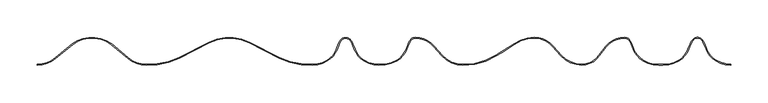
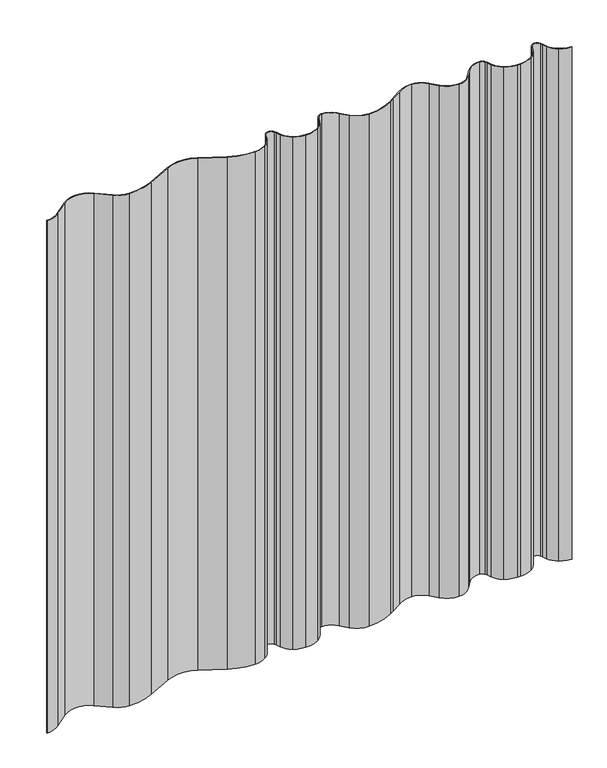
"""IFC4 building model written with IfcOpenShell, lengths in millimetres: plate geometry, Ritmica Vertical 928 : Ritmica Vertical 928."""

from ifc_helpers import new_model, si_unit, frame, origin, place, context, project, spatial, polyline, circle_curve, source, transform, mapped, element, save
from ifc_brep_helpers import plane_surface, cylinder_surface, revolved_surface, advanced_brep


def plate_e4cf7329(model_context):
    return source(origin(), model_context, "Body", "AdvancedBrep", [
        advanced_brep(
        [(444.4302446, 6.5092452, 956.5915404), (431.9836286, 21.2620905, 956.5915404), (429.1046615, 28.4575337, 956.5915404), (427.4452979, 31.9226201, 956.5915404), (411.4637013, 31.9284371, 956.5915404), (409.8018157, 28.4645596, 956.5915404), (406.9176114, 21.271214, 956.5915404), (394.4602592, 6.5274333, 956.5915404), (373.3665492, 0.7421636, 956.5915404), (368.0278773, 0.7421636, 956.5915404), (346.9383844, 6.5447303, 956.5915404), (334.4917684, 21.2975755, 956.5915404), (331.6128013, 28.4930188, 956.5915404), (329.9534377, 31.9581052, 956.5915404), (321.9644706, 36.992141, 956.5915404), (296.9888452, 24.9656023, 956.5915404), (287.4386892, 12.9828793, 956.5915404), (264.9602063, 1.004862, 956.5915404), (237.4962028, 13.0090371, 956.5915404), (226.3924296, 24.9992776, 956.5915404), (201.4255657, 37.0439944, 956.5915404), (174.6923281, 28.6299834, 956.5915404), (157.3593244, 17.4991286, 956.5915404), (149.9257866, 13.1042873, 956.5915404), (105.747615, 0.9217598, 956.5915404), (78.2836116, 12.9259348, 956.5915404), (67.1798385, 24.9161752, 956.5915404), (42.2097646, 36.9608925, 956.5915404), (34.2203451, 31.9326734, 956.5915404), (32.5584593, 28.4687956, 956.5915404), (29.674242, 21.2754179, 956.5915404), (17.2169044, 6.5316705, 956.5915404), (-6.5461114, 0.8337401, 956.5915404), (-26.0848579, 6.3430017, 956.5915404), (-38.5314739, 21.0958469, 956.5915404), (-41.410441, 28.2912902, 956.5915404), (-43.0698047, 31.7563766, 956.5915404), (-59.0514012, 31.7621935, 956.5915404), (-60.7132869, 28.298316, 956.5915404), (-63.5974912, 21.1049705, 956.5915404), (-76.0548434, 6.3611897, 956.5915404), (-95.5975949, 0.8661531, 956.5915404), (-139.3425473, 10.0476548, 956.5915404), (-179.8736188, 30.4443215, 956.5915404), (-233.7774888, 30.4639414, 956.5915404), (-274.3233975, 10.0967851, 956.5915404), (-318.0750221, 0.9471304, 956.5915404), (-341.83917, 9.5589915, 956.5915404), (-364.2633956, 28.2547827, 956.5915404), (-417.1208498, 28.2740218, 956.5915404), (-439.8609935, 9.5945594, 956.5915404), (-463.6317682, 1.0000001, 956.5915404), (-463.6317682, 0.0, 956.5915404), (-439.2211878, 8.8260227, 956.5915404), (-416.5014094, 27.488531, 956.5915404), (-364.8834077, 27.4697431, 956.5915404), (-342.479535, 8.7909208, 956.5915404), (-318.0931528, -0.0528589, 956.5915404), (-273.882295, 9.1992862, 956.5915404), (-233.3286151, 29.5703462, 956.5915404), (-180.3231429, 29.5510533, 956.5915404), (-139.7843031, 9.1504773, 956.5915404), (-95.5801931, -0.1338492, 956.5915404), (-75.5333761, 5.5079185, 956.5915404), (-62.6692321, 20.7330361, 956.5915404), (-59.7974032, 27.8955168, 956.5915404), (-58.1497994, 31.3296266, 956.5915404), (-43.9717211, 31.324466, 956.5915404), (-42.3266177, 27.8891578, 956.5915404), (-39.4600035, 20.7245884, 956.5915404), (-26.6069462, 5.4901103, 956.5915404), (-6.5788504, -0.1662344, 956.5915404), (17.7328786, 5.6750431, 956.5915404), (30.6024869, 20.9034484, 956.5915404), (33.4743429, 28.0659964, 956.5915404), (35.1219469, 31.5001063, 956.5915404), (42.2097628, 35.9608925, 956.5915404), (66.4203948, 24.2645007, 956.5915404), (77.5499027, 12.2464708, 956.5915404), (105.7362544, -0.0782346, 956.5915404), (150.4460781, 12.2501965, 956.5915404), (157.8841427, 16.6477141, 956.5915404), (175.2477974, 27.7982523, 956.5915404), (201.4270073, 36.0439937, 956.5915404), (225.6330756, 24.3475061, 956.5915404), (236.7624939, 12.3295731, 956.5915404), (264.9598423, 0.0048621, 956.5915404), (288.2459339, 12.3912758, 956.5915404), (297.7708595, 24.3423418, 956.5915404), (321.9641067, 35.9921411, 956.5915404), (329.0515212, 31.5261946, 956.5915404), (330.6966247, 28.0908864, 956.5915404), (333.5638307, 20.9248377, 956.5915404), (346.4204051, 5.6893005, 956.5915404), (368.0275134, -0.2558932, 956.5915404), (373.3663683, -0.2578364, 956.5915404), (394.9762369, 5.6708079, 956.5915404), (407.8458704, 20.8992797, 956.5915404), (410.7176994, 28.0617603, 956.5915404), (412.3653031, 31.4958701, 956.5915404), (426.5433815, 31.4907096, 956.5915404), (428.1884849, 28.0554013, 956.5915404), (431.0550991, 20.8908319, 956.5915404), (443.9081563, 5.6563538, 956.5915404), (463.9686268, -1.63e-05, 956.5915404), (463.9686268, 0.9999838, 956.5915404), (444.4302446, 6.5092452, 0.0), (463.9686268, 0.9999838, 0.0), (463.9686268, -1.63e-05, 0.0), (443.9081563, 5.6563538, 0.0), (431.0550991, 20.8908319, 0.0), (428.1884849, 28.0554013, 0.0), (426.5433815, 31.4907096, 0.0), (412.3653031, 31.4958701, 0.0), (410.7176994, 28.0617603, 0.0), (407.8458704, 20.8992797, 0.0), (394.9762369, 5.6708079, 0.0), (373.3663683, -0.2578364, 0.0), (368.0278773, -0.2578364, 0.0), (346.4204051, 5.6893005, 0.0), (333.5638307, 20.9248377, 0.0), (330.6966247, 28.0908864, 0.0), (329.0515212, 31.5261946, 0.0), (321.9641067, 35.9921411, 0.0), (297.7708595, 24.3423418, 0.0), (288.2459339, 12.3912758, 0.0), (264.9598423, 0.0048621, 0.0), (236.7624939, 12.3295731, 0.0), (225.6330756, 24.3475061, 0.0), (201.4270073, 36.0439937, 0.0), (175.2477974, 27.7982523, 0.0), (157.8841427, 16.6477141, 0.0), (150.4460781, 12.2501965, 0.0), (105.7362544, -0.0782346, 0.0), (77.5499027, 12.2464708, 0.0), (66.4203948, 24.2645007, 0.0), (42.2097628, 35.9608925, 0.0), (35.1219469, 31.5001063, 0.0), (33.4743429, 28.0659964, 0.0), (30.6024869, 20.9034484, 0.0), (17.7328786, 5.6750431, 0.0), (-6.5788504, -0.1662344, 0.0), (-26.6069462, 5.4901103, 0.0), (-39.4600035, 20.7245884, 0.0), (-42.3266177, 27.8891578, 0.0), (-43.9717211, 31.324466, 0.0), (-58.1497994, 31.3296266, 0.0), (-59.7974032, 27.8955168, 0.0), (-62.6692321, 20.7330361, 0.0), (-75.5333761, 5.5079185, 0.0), (-95.5801931, -0.1338492, 0.0), (-139.7843031, 9.1504773, 0.0), (-180.3231429, 29.5510533, 0.0), (-233.3286151, 29.5703462, 0.0), (-273.882295, 9.1992862, 0.0), (-318.0931528, -0.0528589, 0.0), (-342.479535, 8.7909208, 0.0), (-364.8834077, 27.4697431, 0.0), (-416.5014094, 27.488531, 0.0), (-439.2211878, 8.8260227, 0.0), (-463.6317682, 0.0, 0.0), (-463.6317682, 1.0000001, 0.0), (-439.8609935, 9.5945594, 0.0), (-417.1208498, 28.2740218, 0.0), (-364.2633956, 28.2547827, 0.0), (-341.83917, 9.5589915, 0.0), (-318.0750221, 0.9471304, 0.0), (-274.3233975, 10.0967851, 0.0), (-233.7774888, 30.4639414, 0.0), (-179.8736188, 30.4443215, 0.0), (-139.3425473, 10.0476548, 0.0), (-95.5975949, 0.8661531, 0.0), (-76.0548434, 6.3611897, 0.0), (-63.5974912, 21.1049705, 0.0), (-60.7132869, 28.298316, 0.0), (-59.0514012, 31.7621935, 0.0), (-43.0698047, 31.7563766, 0.0), (-41.410441, 28.2912902, 0.0), (-38.5314739, 21.0958469, 0.0), (-26.0848579, 6.3430017, 0.0), (-6.5461114, 0.8337401, 0.0), (17.2169044, 6.5316705, 0.0), (29.674242, 21.2754179, 0.0), (32.5584593, 28.4687956, 0.0), (34.2203451, 31.9326734, 0.0), (42.2097646, 36.9608925, 0.0), (67.1798385, 24.9161752, 0.0), (78.2836116, 12.9259348, 0.0), (105.747615, 0.9217598, 0.0), (149.9257866, 13.1042873, 0.0), (157.3593244, 17.4991286, 0.0), (174.6923281, 28.6299834, 0.0), (201.4255657, 37.0439944, 0.0), (226.3924296, 24.9992776, 0.0), (237.4962028, 13.0090371, 0.0), (264.9602063, 1.004862, 0.0), (287.4386892, 12.9828793, 0.0), (296.9888452, 24.9656023, 0.0), (321.9644706, 36.992141, 0.0), (329.9534377, 31.9581052, 0.0), (331.6128013, 28.4930188, 0.0), (334.4917684, 21.2975755, 0.0), (346.9383844, 6.5447303, 0.0), (368.0278773, 0.7441067, 0.0), (373.3665492, 0.7421636, 0.0), (394.4602592, 6.5274333, 0.0), (406.9176114, 21.271214, 0.0), (409.8018157, 28.4645596, 0.0), (411.4637013, 31.9284371, 0.0), (427.4452979, 31.9226201, 0.0), (429.1046615, 28.4575337, 0.0), (431.9836286, 21.2620905, 0.0)],
        [
            (0, 1, circle_curve(frame((460.4148551, 32.6219475, 956.5915404), z_axis=(0.0, 0.0, -1.0), x_axis=(1.0, 0.0, 0.0)), 30.6166783)),
            (1, 2),
            (2, 3),
            (3, 4, circle_curve(frame((419.4531055, 28.095312, 956.5915404), z_axis=(0.0, 0.0, 1.0), x_axis=(1.0, 0.0, 0.0)), 8.8613445)),
            (4, 5),
            (5, 6),
            (6, 7, circle_curve(frame((378.4946619, 32.6517648, 956.5915404), z_axis=(0.0, 0.0, -1.0), x_axis=(1.0, 0.0, 0.0)), 30.6166783)),
            (7, 8, circle_curve(frame((373.381579, 42.0349557, 956.5915404), z_axis=(0.0, 0.0, -1.0), x_axis=(1.0, 0.0, 0.0)), 41.2927949)),
            (8, 9),
            (9, 10, circle_curve(frame((368.0429071, 42.0368989, 956.5915404), z_axis=(0.0, 0.0, -1.0), x_axis=(1.0, 0.0, 0.0)), 41.2927949)),
            (10, 11, circle_curve(frame((363.1637949, 32.8605896, 956.5915404), z_axis=(0.0, 0.0, -1.0), x_axis=(1.0, 0.0, 0.0)), 30.9158276)),
            (11, 12),
            (12, 13),
            (13, 14, circle_curve(frame((321.9612453, 28.130797, 956.5915404), z_axis=(0.0, 0.0, 1.0), x_axis=(1.0, 0.0, 0.0)), 8.8613445)),
            (14, 15, circle_curve(frame((321.9528514, 5.069444, 956.5915404), z_axis=(0.0, 0.0, 1.0), x_axis=(1.0, 0.0, 0.0)), 31.9226992)),
            (15, 16),
            (16, 17, circle_curve(frame((264.9700565, 28.0674484, 956.5915404), z_axis=(0.0, 0.0, -1.0), x_axis=(1.0, 0.0, 0.0)), 27.0625882)),
            (17, 18, circle_curve(frame((264.9738374, 38.455184, 956.5915404), z_axis=(0.0, 0.0, -1.0), x_axis=(1.0, 0.0, 0.0)), 37.4503244)),
            (18, 19),
            (19, 20, circle_curve(frame((201.4139464, 5.1212973, 956.5915404), z_axis=(0.0, 0.0, 1.0), x_axis=(1.0, 0.0, 0.0)), 31.9226992)),
            (20, 21, circle_curve(frame((201.5791622, -10.119828, 956.5915404), z_axis=(0.0, 0.0, 1.0), x_axis=(1.0, 0.0, 0.0)), 47.1640725)),
            (21, 22),
            (22, 23),
            (23, 24, circle_curve(frame((107.5247522, 80.6713634, 956.5915404), z_axis=(0.0, 0.0, -1.0), x_axis=(1.0, 0.0, 0.0)), 79.769402)),
            (24, 25, circle_curve(frame((105.7612462, 38.3720817, 956.5915404), z_axis=(0.0, 0.0, -1.0), x_axis=(1.0, 0.0, 0.0)), 37.4503244)),
            (25, 26),
            (26, 27, circle_curve(frame((42.2097086, 5.0555108, 956.5915404), z_axis=(0.0, 0.0, 1.0), x_axis=(1.0, 0.0, 0.0)), 31.9053816)),
            (27, 28, circle_curve(frame((42.209749, 28.099548, 956.5915404), z_axis=(0.0, 0.0, 1.0), x_axis=(1.0, 0.0, 0.0)), 8.8613444)),
            (28, 29),
            (29, 30),
            (30, 31, circle_curve(frame((1.2513055, 32.656001, 956.5915404), z_axis=(0.0, 0.0, -1.0), x_axis=(1.0, 0.0, 0.0)), 30.6166783)),
            (31, 32, circle_curve(frame((-3.8617775, 42.0391919, 956.5915404), z_axis=(0.0, 0.0, -1.0), x_axis=(1.0, 0.0, 0.0)), 41.2927948)),
            (32, 33, circle_curve(frame((-6.5324806, 38.2840621, 956.5915404), z_axis=(0.0, 0.0, -1.0), x_axis=(1.0, 0.0, 0.0)), 37.4503244)),
            (33, 34, circle_curve(frame((-10.1002475, 32.4557039, 956.5915404), z_axis=(0.0, 0.0, -1.0), x_axis=(1.0, 0.0, 0.0)), 30.6166783)),
            (34, 35),
            (35, 36),
            (36, 37, circle_curve(frame((-51.0619971, 27.9290684, 956.5915404), z_axis=(0.0, 0.0, 1.0), x_axis=(1.0, 0.0, 0.0)), 8.8613445)),
            (37, 38),
            (38, 39),
            (39, 40, circle_curve(frame((-92.0204406, 32.4855212, 956.5915404), z_axis=(0.0, 0.0, -1.0), x_axis=(1.0, 0.0, 0.0)), 30.6166783)),
            (40, 41, circle_curve(frame((-95.5839638, 38.316475, 956.5915404), z_axis=(0.0, 0.0, -1.0), x_axis=(1.0, 0.0, 0.0)), 37.4503244)),
            (41, 42, circle_curve(frame((-98.8645428, 94.1023106, 956.5915404), z_axis=(0.0, 0.0, -1.0), x_axis=(1.0, 0.0, 0.0)), 93.293376)),
            (42, 43),
            (43, 44, circle_curve(frame((-206.8450653, -23.1517705, 956.5915404), z_axis=(0.0, 0.0, 1.0), x_axis=(1.0, 0.0, 0.0)), 60.0)),
            (44, 45),
            (45, 46, circle_curve(frame((-314.7402029, 94.180885, 956.5915404), z_axis=(0.0, 0.0, -1.0), x_axis=(1.0, 0.0, 0.0)), 93.293376)),
            (46, 47, circle_curve(frame((-318.061507, 38.0785482, 956.5915404), z_axis=(0.0, 0.0, -1.0), x_axis=(1.0, 0.0, 0.0)), 37.1314203)),
            (47, 48),
            (48, 49, circle_curve(frame((-390.7049909, -7.0897704, 956.5915404), z_axis=(0.0, 0.0, 1.0), x_axis=(1.0, 0.0, 0.0)), 44.1406321)),
            (49, 50),
            (50, 51, circle_curve(frame((-463.6178891, 38.1314178, 956.5915404), z_axis=(0.0, 0.0, -1.0), x_axis=(1.0, 0.0, 0.0)), 37.1314203)),
            (51, 52),
            (52, 53, circle_curve(frame((-463.6178891, 38.1314178, 956.5915404), z_axis=(0.0, 0.0, 1.0), x_axis=(1.0, 0.0, 0.0)), 38.1314203)),
            (53, 54),
            (54, 55, circle_curve(frame((-390.7049909, -7.0897704, 956.5915404), z_axis=(0.0, 0.0, -1.0), x_axis=(1.0, 0.0, 0.0)), 43.1406321)),
            (55, 56),
            (56, 57, circle_curve(frame((-318.061507, 38.0785482, 956.5915404), z_axis=(0.0, 0.0, 1.0), x_axis=(1.0, 0.0, 0.0)), 38.1314203)),
            (57, 58, circle_curve(frame((-314.7402029, 94.180885, 956.5915404), z_axis=(0.0, 0.0, 1.0), x_axis=(1.0, 0.0, 0.0)), 94.293376)),
            (58, 59),
            (59, 60, circle_curve(frame((-206.8450653, -23.1517705, 956.5915404), z_axis=(0.0, 0.0, -1.0), x_axis=(1.0, 0.0, 0.0)), 59.0)),
            (60, 61),
            (61, 62, circle_curve(frame((-98.8645428, 94.1023106, 956.5915404), z_axis=(0.0, 0.0, 1.0), x_axis=(1.0, 0.0, 0.0)), 94.293376)),
            (62, 63, circle_curve(frame((-95.5839638, 38.316475, 956.5915404), z_axis=(0.0, 0.0, 1.0), x_axis=(1.0, 0.0, 0.0)), 38.4503244)),
            (63, 64, circle_curve(frame((-92.0204406, 32.4855212, 956.5915404), z_axis=(0.0, 0.0, 1.0), x_axis=(1.0, 0.0, 0.0)), 31.6166783)),
            (64, 65),
            (65, 66),
            (66, 67, circle_curve(frame((-51.0619971, 27.9290684, 956.5915404), z_axis=(0.0, 0.0, -1.0), x_axis=(1.0, 0.0, 0.0)), 7.8613445)),
            (67, 68),
            (68, 69),
            (69, 70, circle_curve(frame((-10.1002475, 32.4557039, 956.5915404), z_axis=(0.0, 0.0, 1.0), x_axis=(1.0, 0.0, 0.0)), 31.6166783)),
            (70, 71, circle_curve(frame((-6.5324806, 38.2840621, 956.5915404), z_axis=(0.0, 0.0, 1.0), x_axis=(1.0, 0.0, 0.0)), 38.4503244)),
            (71, 72, circle_curve(frame((-3.8617775, 42.0391919, 956.5915404), z_axis=(0.0, 0.0, 1.0), x_axis=(1.0, 0.0, 0.0)), 42.2927948)),
            (72, 73, circle_curve(frame((1.2513055, 32.656001, 956.5915404), z_axis=(0.0, 0.0, 1.0), x_axis=(1.0, 0.0, 0.0)), 31.6166782)),
            (73, 74),
            (74, 75),
            (75, 76, circle_curve(frame((42.209749, 28.099548, 956.5915404), z_axis=(0.0, 0.0, -1.0), x_axis=(1.0, 0.0, 0.0)), 7.8613444)),
            (76, 77, circle_curve(frame((42.2097086, 5.0555108, 956.5915404), z_axis=(0.0, 0.0, -1.0), x_axis=(1.0, 0.0, 0.0)), 30.9053816)),
            (77, 78),
            (78, 79, circle_curve(frame((105.7612462, 38.3720817, 956.5915404), z_axis=(0.0, 0.0, 1.0), x_axis=(1.0, 0.0, 0.0)), 38.4503244)),
            (79, 80, circle_curve(frame((107.5247522, 80.6713634, 956.5915404), z_axis=(0.0, 0.0, 1.0), x_axis=(1.0, 0.0, 0.0)), 80.769402)),
            (80, 81),
            (81, 82),
            (82, 83, circle_curve(frame((201.5791622, -10.119828, 956.5915404), z_axis=(0.0, 0.0, -1.0), x_axis=(1.0, 0.0, 0.0)), 46.1640725)),
            (83, 84, circle_curve(frame((201.4139464, 5.1212973, 956.5915404), z_axis=(0.0, 0.0, -1.0), x_axis=(1.0, 0.0, 0.0)), 30.9226992)),
            (84, 85),
            (85, 86, circle_curve(frame((264.9738374, 38.455184, 956.5915404), z_axis=(0.0, 0.0, 1.0), x_axis=(1.0, 0.0, 0.0)), 38.4503244)),
            (86, 87, circle_curve(frame((264.9700565, 28.0674484, 956.5915404), z_axis=(0.0, 0.0, 1.0), x_axis=(1.0, 0.0, 0.0)), 28.0625882)),
            (87, 88),
            (88, 89, circle_curve(frame((321.9528514, 5.069444, 956.5915404), z_axis=(0.0, 0.0, -1.0), x_axis=(1.0, 0.0, 0.0)), 30.9226992)),
            (89, 90, circle_curve(frame((321.9612453, 28.130797, 956.5915404), z_axis=(0.0, 0.0, -1.0), x_axis=(1.0, 0.0, 0.0)), 7.8613445)),
            (90, 91),
            (91, 92),
            (92, 93, circle_curve(frame((363.1637949, 32.8605896, 956.5915404), z_axis=(0.0, 0.0, 1.0), x_axis=(1.0, 0.0, 0.0)), 31.9158276)),
            (93, 94, circle_curve(frame((368.0429071, 42.0368989, 956.5915404), z_axis=(0.0, 0.0, 1.0), x_axis=(1.0, 0.0, 0.0)), 42.2927949)),
            (94, 95),
            (95, 96, circle_curve(frame((373.381579, 42.0349557, 956.5915404), z_axis=(0.0, 0.0, 1.0), x_axis=(1.0, 0.0, 0.0)), 42.2927949)),
            (96, 97, circle_curve(frame((378.4946619, 32.6517648, 956.5915404), z_axis=(0.0, 0.0, 1.0), x_axis=(1.0, 0.0, 0.0)), 31.6166783)),
            (97, 98),
            (98, 99),
            (99, 100, circle_curve(frame((419.4531055, 28.095312, 956.5915404), z_axis=(0.0, 0.0, -1.0), x_axis=(1.0, 0.0, 0.0)), 7.8613445)),
            (100, 101),
            (101, 102),
            (102, 103, circle_curve(frame((460.4148551, 32.6219475, 956.5915404), z_axis=(0.0, 0.0, 1.0), x_axis=(1.0, 0.0, 0.0)), 31.6166783)),
            (103, 104, circle_curve(frame((463.982622, 38.4503056, 956.5915404), z_axis=(0.0, 0.0, 1.0), x_axis=(1.0, 0.0, 0.0)), 38.4503244)),
            (104, 105),
            (105, 0, circle_curve(frame((463.982622, 38.4503056, 956.5915404), z_axis=(0.0, 0.0, -1.0), x_axis=(1.0, 0.0, 0.0)), 37.4503244)),
            (106, 107, circle_curve(frame((463.982622, 38.4503056, 0.0), z_axis=(0.0, 0.0, 1.0), x_axis=(1.0, 0.0, 0.0)), 37.4503244)),
            (107, 108),
            (108, 109, circle_curve(frame((463.982622, 38.4503056, 0.0), z_axis=(0.0, 0.0, -1.0), x_axis=(1.0, 0.0, 0.0)), 38.4503244)),
            (109, 110, circle_curve(frame((460.4148551, 32.6219475, 0.0), z_axis=(0.0, 0.0, -1.0), x_axis=(1.0, 0.0, 0.0)), 31.6166783)),
            (110, 111),
            (111, 112),
            (112, 113, circle_curve(frame((419.4531055, 28.095312, 0.0), z_axis=(0.0, 0.0, 1.0), x_axis=(1.0, 0.0, 0.0)), 7.8613445)),
            (113, 114),
            (114, 115),
            (115, 116, circle_curve(frame((378.4946619, 32.6517648, 0.0), z_axis=(0.0, 0.0, -1.0), x_axis=(1.0, 0.0, 0.0)), 31.6166783)),
            (116, 117, circle_curve(frame((373.381579, 42.0349557, 0.0), z_axis=(0.0, 0.0, -1.0), x_axis=(1.0, 0.0, 0.0)), 42.2927949)),
            (117, 118),
            (118, 119, circle_curve(frame((368.0429071, 42.0368989, 0.0), z_axis=(0.0, 0.0, -1.0), x_axis=(1.0, 0.0, 0.0)), 42.2927949)),
            (119, 120, circle_curve(frame((363.1637949, 32.8605896, 0.0), z_axis=(0.0, 0.0, -1.0), x_axis=(1.0, 0.0, 0.0)), 31.9158276)),
            (120, 121),
            (121, 122),
            (122, 123, circle_curve(frame((321.9612453, 28.130797, 0.0), z_axis=(0.0, 0.0, 1.0), x_axis=(1.0, 0.0, 0.0)), 7.8613445)),
            (123, 124, circle_curve(frame((321.9528514, 5.069444, 0.0), z_axis=(0.0, 0.0, 1.0), x_axis=(1.0, 0.0, 0.0)), 30.9226992)),
            (124, 125),
            (125, 126, circle_curve(frame((264.9700565, 28.0674484, 0.0), z_axis=(0.0, 0.0, -1.0), x_axis=(1.0, 0.0, 0.0)), 28.0625882)),
            (126, 127, circle_curve(frame((264.9738374, 38.455184, 0.0), z_axis=(0.0, 0.0, -1.0), x_axis=(1.0, 0.0, 0.0)), 38.4503244)),
            (127, 128),
            (128, 129, circle_curve(frame((201.4139464, 5.1212973, 0.0), z_axis=(0.0, 0.0, 1.0), x_axis=(1.0, 0.0, 0.0)), 30.9226992)),
            (129, 130, circle_curve(frame((201.5791622, -10.119828, 0.0), z_axis=(0.0, 0.0, 1.0), x_axis=(1.0, 0.0, 0.0)), 46.1640725)),
            (130, 131),
            (131, 132),
            (132, 133, circle_curve(frame((107.5247522, 80.6713634, 0.0), z_axis=(0.0, 0.0, -1.0), x_axis=(1.0, 0.0, 0.0)), 80.769402)),
            (133, 134, circle_curve(frame((105.7612462, 38.3720817, 0.0), z_axis=(0.0, 0.0, -1.0), x_axis=(1.0, 0.0, 0.0)), 38.4503244)),
            (134, 135),
            (135, 136, circle_curve(frame((42.2097086, 5.0555108, 0.0), z_axis=(0.0, 0.0, 1.0), x_axis=(1.0, 0.0, 0.0)), 30.9053816)),
            (136, 137, circle_curve(frame((42.209749, 28.099548, 0.0), z_axis=(0.0, 0.0, 1.0), x_axis=(1.0, 0.0, 0.0)), 7.8613444)),
            (137, 138),
            (138, 139),
            (139, 140, circle_curve(frame((1.2513055, 32.656001, 0.0), z_axis=(0.0, 0.0, -1.0), x_axis=(1.0, 0.0, 0.0)), 31.6166782)),
            (140, 141, circle_curve(frame((-3.8617775, 42.0391919, 0.0), z_axis=(0.0, 0.0, -1.0), x_axis=(1.0, 0.0, 0.0)), 42.2927948)),
            (141, 142, circle_curve(frame((-6.5324806, 38.2840621, 0.0), z_axis=(0.0, 0.0, -1.0), x_axis=(1.0, 0.0, 0.0)), 38.4503244)),
            (142, 143, circle_curve(frame((-10.1002475, 32.4557039, 0.0), z_axis=(0.0, 0.0, -1.0), x_axis=(1.0, 0.0, 0.0)), 31.6166783)),
            (143, 144),
            (144, 145),
            (145, 146, circle_curve(frame((-51.0619971, 27.9290684, 0.0), z_axis=(0.0, 0.0, 1.0), x_axis=(1.0, 0.0, 0.0)), 7.8613445)),
            (146, 147),
            (147, 148),
            (148, 149, circle_curve(frame((-92.0204406, 32.4855212, 0.0), z_axis=(0.0, 0.0, -1.0), x_axis=(1.0, 0.0, 0.0)), 31.6166783)),
            (149, 150, circle_curve(frame((-95.5839638, 38.316475, 0.0), z_axis=(0.0, 0.0, -1.0), x_axis=(1.0, 0.0, 0.0)), 38.4503244)),
            (150, 151, circle_curve(frame((-98.8645428, 94.1023106, 0.0), z_axis=(0.0, 0.0, -1.0), x_axis=(1.0, 0.0, 0.0)), 94.293376)),
            (151, 152),
            (152, 153, circle_curve(frame((-206.8450653, -23.1517705, 0.0), z_axis=(0.0, 0.0, 1.0), x_axis=(1.0, 0.0, 0.0)), 59.0)),
            (153, 154),
            (154, 155, circle_curve(frame((-314.7402029, 94.180885, 0.0), z_axis=(0.0, 0.0, -1.0), x_axis=(1.0, 0.0, 0.0)), 94.293376)),
            (155, 156, circle_curve(frame((-318.061507, 38.0785482, 0.0), z_axis=(0.0, 0.0, -1.0), x_axis=(1.0, 0.0, 0.0)), 38.1314203)),
            (156, 157),
            (157, 158, circle_curve(frame((-390.7049909, -7.0897704, 0.0), z_axis=(0.0, 0.0, 1.0), x_axis=(1.0, 0.0, 0.0)), 43.1406321)),
            (158, 159),
            (159, 160, circle_curve(frame((-463.6178891, 38.1314178, 0.0), z_axis=(0.0, 0.0, -1.0), x_axis=(1.0, 0.0, 0.0)), 38.1314203)),
            (160, 161),
            (161, 162, circle_curve(frame((-463.6178891, 38.1314178, 0.0), z_axis=(0.0, 0.0, 1.0), x_axis=(1.0, 0.0, 0.0)), 37.1314203)),
            (162, 163),
            (163, 164, circle_curve(frame((-390.7049909, -7.0897704, 0.0), z_axis=(0.0, 0.0, -1.0), x_axis=(1.0, 0.0, 0.0)), 44.1406321)),
            (164, 165),
            (165, 166, circle_curve(frame((-318.061507, 38.0785482, 0.0), z_axis=(0.0, 0.0, 1.0), x_axis=(1.0, 0.0, 0.0)), 37.1314203)),
            (166, 167, circle_curve(frame((-314.7402029, 94.180885, 0.0), z_axis=(0.0, 0.0, 1.0), x_axis=(1.0, 0.0, 0.0)), 93.293376)),
            (167, 168),
            (168, 169, circle_curve(frame((-206.8450653, -23.1517705, 0.0), z_axis=(0.0, 0.0, -1.0), x_axis=(1.0, 0.0, 0.0)), 60.0)),
            (169, 170),
            (170, 171, circle_curve(frame((-98.8645428, 94.1023106, 0.0), z_axis=(0.0, 0.0, 1.0), x_axis=(1.0, 0.0, 0.0)), 93.293376)),
            (171, 172, circle_curve(frame((-95.5839638, 38.316475, 0.0), z_axis=(0.0, 0.0, 1.0), x_axis=(1.0, 0.0, 0.0)), 37.4503244)),
            (172, 173, circle_curve(frame((-92.0204406, 32.4855212, 0.0), z_axis=(0.0, 0.0, 1.0), x_axis=(1.0, 0.0, 0.0)), 30.6166783)),
            (173, 174),
            (174, 175),
            (175, 176, circle_curve(frame((-51.0619971, 27.9290684, 0.0), z_axis=(0.0, 0.0, -1.0), x_axis=(1.0, 0.0, 0.0)), 8.8613445)),
            (176, 177),
            (177, 178),
            (178, 179, circle_curve(frame((-10.1002475, 32.4557039, 0.0), z_axis=(0.0, 0.0, 1.0), x_axis=(1.0, 0.0, 0.0)), 30.6166783)),
            (179, 180, circle_curve(frame((-6.5324806, 38.2840621, 0.0), z_axis=(0.0, 0.0, 1.0), x_axis=(1.0, 0.0, 0.0)), 37.4503244)),
            (180, 181, circle_curve(frame((-3.8617775, 42.0391919, 0.0), z_axis=(0.0, 0.0, 1.0), x_axis=(1.0, 0.0, 0.0)), 41.2927948)),
            (181, 182, circle_curve(frame((1.2513055, 32.656001, 0.0), z_axis=(0.0, 0.0, 1.0), x_axis=(1.0, 0.0, 0.0)), 30.6166783)),
            (182, 183),
            (183, 184),
            (184, 185, circle_curve(frame((42.209749, 28.099548, 0.0), z_axis=(0.0, 0.0, -1.0), x_axis=(1.0, 0.0, 0.0)), 8.8613444)),
            (185, 186, circle_curve(frame((42.2097086, 5.0555108, 0.0), z_axis=(0.0, 0.0, -1.0), x_axis=(1.0, 0.0, 0.0)), 31.9053816)),
            (186, 187),
            (187, 188, circle_curve(frame((105.7612462, 38.3720817, 0.0), z_axis=(0.0, 0.0, 1.0), x_axis=(1.0, 0.0, 0.0)), 37.4503244)),
            (188, 189, circle_curve(frame((107.5247522, 80.6713634, 0.0), z_axis=(0.0, 0.0, 1.0), x_axis=(1.0, 0.0, 0.0)), 79.769402)),
            (189, 190),
            (190, 191),
            (191, 192, circle_curve(frame((201.5791622, -10.119828, 0.0), z_axis=(0.0, 0.0, -1.0), x_axis=(1.0, 0.0, 0.0)), 47.1640725)),
            (192, 193, circle_curve(frame((201.4139464, 5.1212973, 0.0), z_axis=(0.0, 0.0, -1.0), x_axis=(1.0, 0.0, 0.0)), 31.9226992)),
            (193, 194),
            (194, 195, circle_curve(frame((264.9738374, 38.455184, 0.0), z_axis=(0.0, 0.0, 1.0), x_axis=(1.0, 0.0, 0.0)), 37.4503244)),
            (195, 196, circle_curve(frame((264.9700565, 28.0674484, 0.0), z_axis=(0.0, 0.0, 1.0), x_axis=(1.0, 0.0, 0.0)), 27.0625882)),
            (196, 197),
            (197, 198, circle_curve(frame((321.9528514, 5.069444, 0.0), z_axis=(0.0, 0.0, -1.0), x_axis=(1.0, 0.0, 0.0)), 31.9226992)),
            (198, 199, circle_curve(frame((321.9612453, 28.130797, 0.0), z_axis=(0.0, 0.0, -1.0), x_axis=(1.0, 0.0, 0.0)), 8.8613445)),
            (199, 200),
            (200, 201),
            (201, 202, circle_curve(frame((363.1637949, 32.8605896, 0.0), z_axis=(0.0, 0.0, 1.0), x_axis=(1.0, 0.0, 0.0)), 30.9158276)),
            (202, 203, circle_curve(frame((368.0429071, 42.0368989, 0.0), z_axis=(0.0, 0.0, 1.0), x_axis=(1.0, 0.0, 0.0)), 41.2927949)),
            (203, 204),
            (204, 205, circle_curve(frame((373.381579, 42.0349557, 0.0), z_axis=(0.0, 0.0, 1.0), x_axis=(1.0, 0.0, 0.0)), 41.2927949)),
            (205, 206, circle_curve(frame((378.4946619, 32.6517648, 0.0), z_axis=(0.0, 0.0, 1.0), x_axis=(1.0, 0.0, 0.0)), 30.6166783)),
            (206, 207),
            (207, 208),
            (208, 209, circle_curve(frame((419.4531055, 28.095312, 0.0), z_axis=(0.0, 0.0, -1.0), x_axis=(1.0, 0.0, 0.0)), 8.8613445)),
            (209, 210),
            (210, 211),
            (211, 106, circle_curve(frame((460.4148551, 32.6219475, 0.0), z_axis=(0.0, 0.0, 1.0), x_axis=(1.0, 0.0, 0.0)), 30.6166783)),
            (0, 106),
            (211, 1),
            (210, 2),
            (209, 3),
            (208, 4),
            (207, 5),
            (206, 6),
            (205, 7),
            (204, 8),
            (203, 9),
            (202, 10),
            (201, 11),
            (200, 12),
            (199, 13),
            (198, 14),
            (197, 15),
            (196, 16),
            (195, 17),
            (194, 18),
            (193, 19),
            (192, 20),
            (191, 21),
            (190, 22),
            (189, 23),
            (188, 24),
            (187, 25),
            (186, 26),
            (185, 27),
            (184, 28),
            (183, 29),
            (182, 30),
            (181, 31),
            (180, 32),
            (179, 33),
            (178, 34),
            (177, 35),
            (176, 36),
            (175, 37),
            (174, 38),
            (173, 39),
            (172, 40),
            (171, 41),
            (170, 42),
            (169, 43),
            (168, 44),
            (167, 45),
            (166, 46),
            (165, 47),
            (164, 48),
            (163, 49),
            (162, 50),
            (161, 51),
            (160, 52),
            (159, 53),
            (158, 54),
            (157, 55),
            (156, 56),
            (155, 57),
            (154, 58),
            (153, 59),
            (152, 60),
            (151, 61),
            (150, 62),
            (149, 63),
            (148, 64),
            (147, 65),
            (146, 66),
            (145, 67),
            (144, 68),
            (143, 69),
            (142, 70),
            (141, 71),
            (140, 72),
            (139, 73),
            (138, 74),
            (137, 75),
            (136, 76),
            (135, 77),
            (134, 78),
            (133, 79),
            (132, 80),
            (131, 81),
            (130, 82),
            (129, 83),
            (128, 84),
            (127, 85),
            (126, 86),
            (125, 87),
            (124, 88),
            (123, 89),
            (122, 90),
            (121, 91),
            (120, 92),
            (119, 93),
            (118, 94),
            (117, 95),
            (116, 96),
            (115, 97),
            (114, 98),
            (113, 99),
            (112, 100),
            (111, 101),
            (110, 102),
            (109, 103),
            (108, 104),
            (107, 105),
        ],
        [
            plane_surface(frame((491.0315334, 32.6219475, 956.5915404), z_axis=(0.0, 0.0, 1.0), x_axis=(0.0, -1.0, 0.0))),
            plane_surface(frame((491.0315334, 32.6219475, 0.0), z_axis=(0.0, 0.0, -1.0), x_axis=(0.0, 1.0, 0.0))),
            revolved_surface(polyline([(491.0315334, 32.6219475, 0.0), (491.0315334, 32.6219475, 956.5915404)]), (460.4148551, 32.6219475, 0.0), (0.0, 0.0, -1.0)),
            plane_surface(frame((431.9836286, 21.2620905, 956.5915404), z_axis=(0.9284415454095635, 0.3714785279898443, 0.0), x_axis=(0.0, 0.0, -1.0))),
            plane_surface(frame((429.1046615, 28.4575337, 956.5915404), z_axis=(0.901916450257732, 0.4319105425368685, 0.0), x_axis=(0.0, 0.0, -1.0))),
            cylinder_surface(frame((419.4531055, 28.095312, 0.0), z_axis=(0.0, 0.0, 1.0), x_axis=(1.0, 0.0, 0.0)), 8.8613445),
            plane_surface(frame((411.4637013, 31.9284371, 956.5915404), z_axis=(-0.9016017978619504, 0.4325669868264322, 0.0), x_axis=(0.0, 0.0, -1.0))),
            plane_surface(frame((409.8018157, 28.4645596, 956.5915404), z_axis=(-0.9281708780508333, 0.37215429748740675, 0.0), x_axis=(0.0, 0.0, -1.0))),
            revolved_surface(polyline([(409.1113402, 32.6517648, 0.0), (409.1113402, 32.6517648, 956.5915404)]), (378.4946619, 32.6517648, 0.0), (0.0, 0.0, -1.0)),
            revolved_surface(polyline([(414.6743739, 42.0349557, 0.0), (414.6743739, 42.0349557, 956.5915404)]), (373.381579, 42.0349557, 0.0), (0.0, 0.0, -1.0)),
            plane_surface(frame((373.3665492, 0.7421636, 956.5915404), z_axis=(0.0, 1.0, 0.0), x_axis=(0.0, 0.0, -1.0))),
            revolved_surface(polyline([(409.33570199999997, 42.0368989, 0.0), (409.33570199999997, 42.0368989, 956.5915404)]), (368.0429071, 42.0368989, 0.0), (0.0, 0.0, -1.0)),
            revolved_surface(polyline([(394.0796225, 32.8605896, 0.0), (394.0796225, 32.8605896, 956.5915404)]), (363.1637949, 32.8605896, 0.0), (0.0, 0.0, -1.0)),
            plane_surface(frame((334.4917684, 21.2975755, 956.5915404), z_axis=(0.9284415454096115, 0.37147852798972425, 0.0), x_axis=(0.0, 0.0, -1.0))),
            plane_surface(frame((331.6128013, 28.4930188, 956.5915404), z_axis=(0.901916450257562, 0.4319105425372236, 0.0), x_axis=(0.0, 0.0, -1.0))),
            cylinder_surface(frame((321.9612453, 28.130797, 0.0), z_axis=(0.0, 0.0, 1.0), x_axis=(1.0, 0.0, 0.0)), 8.8613445),
            cylinder_surface(frame((321.9528514, 5.069444, 0.0), z_axis=(0.0, 0.0, 1.0), x_axis=(1.0, 0.0, 0.0)), 31.9226992),
            plane_surface(frame((296.9888452, 24.9656023, 956.5915404), z_axis=(-0.7820142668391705, 0.6232605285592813, 0.0), x_axis=(0.0, 0.0, -1.0))),
            revolved_surface(polyline([(292.0326447, 28.0674484, 0.0), (292.0326447, 28.0674484, 956.5915404)]), (264.9700565, 28.0674484, 0.0), (0.0, 0.0, -1.0)),
            revolved_surface(polyline([(302.4241618, 38.455184, 0.0), (302.4241618, 38.455184, 956.5915404)]), (264.9738374, 38.455184, 0.0), (0.0, 0.0, -1.0)),
            plane_surface(frame((237.4962028, 13.0090371, 956.5915404), z_axis=(0.7337088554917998, 0.6794639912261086, 0.0), x_axis=(0.0, 0.0, -1.0))),
            cylinder_surface(frame((201.4139464, 5.1212973, 0.0), z_axis=(0.0, 0.0, 1.0), x_axis=(1.0, 0.0, 0.0)), 31.9226992),
            cylinder_surface(frame((201.5791622, -10.119828, 0.0), z_axis=(0.0, 0.0, 1.0), x_axis=(1.0, 0.0, 0.0)), 47.1640725),
            plane_surface(frame((174.6923281, 28.6299834, 956.5915404), z_axis=(-0.5403525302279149, 0.8414387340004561, 0.0), x_axis=(0.0, 0.0, -1.0))),
            plane_surface(frame((157.3593244, 17.4991286, 956.5915404), z_axis=(-0.508926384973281, 0.8608100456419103, 0.0), x_axis=(0.0, 0.0, -1.0))),
            revolved_surface(polyline([(187.29415419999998, 80.6713634, 0.0), (187.29415419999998, 80.6713634, 956.5915404)]), (107.5247522, 80.6713634, 0.0), (0.0, 0.0, -1.0)),
            revolved_surface(polyline([(143.21157060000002, 38.3720817, 0.0), (143.21157060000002, 38.3720817, 956.5915404)]), (105.7612462, 38.3720817, 0.0), (0.0, 0.0, -1.0)),
            plane_surface(frame((78.2836116, 12.9259348, 956.5915404), z_axis=(0.7337088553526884, 0.679463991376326, 0.0), x_axis=(0.0, 0.0, -1.0))),
            cylinder_surface(frame((42.2097086, 5.0555108, 0.0), z_axis=(0.0, 0.0, 1.0), x_axis=(1.0, 0.0, 0.0)), 31.9053816),
            cylinder_surface(frame((42.209749, 28.099548, 0.0), z_axis=(0.0, 0.0, 1.0), x_axis=(1.0, 0.0, 0.0)), 8.8613444),
            plane_surface(frame((34.2203451, 31.9326734, 956.5915404), z_axis=(-0.901601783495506, 0.4325670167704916, 0.0), x_axis=(0.0, 0.0, -1.0))),
            plane_surface(frame((32.5584593, 28.4687956, 956.5915404), z_axis=(-0.9281708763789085, 0.3721543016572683, 0.0), x_axis=(0.0, 0.0, -1.0))),
            revolved_surface(polyline([(31.8679838, 32.656001, 0.0), (31.8679838, 32.656001, 956.5915404)]), (1.2513055, 32.656001, 0.0), (0.0, 0.0, -1.0)),
            revolved_surface(polyline([(37.4310173, 42.0391919, 0.0), (37.4310173, 42.0391919, 956.5915404)]), (-3.8617775, 42.0391919, 0.0), (0.0, 0.0, -1.0)),
            revolved_surface(polyline([(30.9178438, 38.2840621, 0.0), (30.9178438, 38.2840621, 956.5915404)]), (-6.5324806, 38.2840621, 0.0), (0.0, 0.0, -1.0)),
            revolved_surface(polyline([(20.516430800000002, 32.4557039, 0.0), (20.516430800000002, 32.4557039, 956.5915404)]), (-10.1002475, 32.4557039, 0.0), (0.0, 0.0, -1.0)),
            plane_surface(frame((-38.5314739, 21.0958469, 956.5915404), z_axis=(0.9284415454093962, 0.37147852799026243, 0.0), x_axis=(0.0, 0.0, -1.0))),
            plane_surface(frame((-41.410441, 28.2912902, 956.5915404), z_axis=(0.9019164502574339, 0.4319105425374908, 0.0), x_axis=(0.0, 0.0, -1.0))),
            cylinder_surface(frame((-51.0619971, 27.9290684, 0.0), z_axis=(0.0, 0.0, 1.0), x_axis=(1.0, 0.0, 0.0)), 8.8613445),
            plane_surface(frame((-59.0514012, 31.7621935, 956.5915404), z_axis=(-0.90160179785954, 0.4325669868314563, 0.0), x_axis=(0.0, 0.0, -1.0))),
            plane_surface(frame((-60.7132869, 28.298316, 956.5915404), z_axis=(-0.9281708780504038, 0.37215429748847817, 0.0), x_axis=(0.0, 0.0, -1.0))),
            revolved_surface(polyline([(-61.4037623, 32.4855212, 0.0), (-61.4037623, 32.4855212, 956.5915404)]), (-92.0204406, 32.4855212, 0.0), (0.0, 0.0, -1.0)),
            revolved_surface(polyline([(-58.13363940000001, 38.316475, 0.0), (-58.13363940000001, 38.316475, 956.5915404)]), (-95.5839638, 38.316475, 0.0), (0.0, 0.0, -1.0)),
            revolved_surface(polyline([(-5.5711668, 94.1023106, 0.0), (-5.5711668, 94.1023106, 956.5915404)]), (-98.8645428, 94.1023106, 0.0), (0.0, 0.0, -1.0)),
            plane_surface(frame((-139.3425473, 10.0476548, 956.5915404), z_axis=(0.4495241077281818, 0.8932681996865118, 0.0), x_axis=(0.0, 0.0, -1.0))),
            cylinder_surface(frame((-206.8450653, -23.1517705, 0.0), z_axis=(0.0, 0.0, 1.0), x_axis=(1.0, 0.0, 0.0)), 60.0),
            plane_surface(frame((-233.7774888, 30.4639414, 956.5915404), z_axis=(-0.44887372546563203, 0.8935951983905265, 0.0), x_axis=(0.0, 0.0, -1.0))),
            revolved_surface(polyline([(-221.4468269, 94.180885, 0.0), (-221.4468269, 94.180885, 956.5915404)]), (-314.7402029, 94.180885, 0.0), (0.0, 0.0, -1.0)),
            revolved_surface(polyline([(-280.9300867, 38.0785482, 0.0), (-280.9300867, 38.0785482, 956.5915404)]), (-318.061507, 38.0785482, 0.0), (0.0, 0.0, -1.0)),
            plane_surface(frame((-341.83917, 9.5589915, 956.5915404), z_axis=(0.6403650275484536, 0.7680707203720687, 0.0), x_axis=(0.0, 0.0, -1.0))),
            cylinder_surface(frame((-390.7049909, -7.0897704, 0.0), z_axis=(0.0, 0.0, 1.0), x_axis=(1.0, 0.0, 0.0)), 44.1406321),
            plane_surface(frame((-417.1208498, 28.2740218, 956.5915404), z_axis=(-0.634740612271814, 0.7727252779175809, 0.0), x_axis=(0.0, 0.0, -1.0))),
            revolved_surface(polyline([(-426.4864688, 38.1314178, 0.0), (-426.4864688, 38.1314178, 956.5915404)]), (-463.6178891, 38.1314178, 0.0), (0.0, 0.0, -1.0)),
            plane_surface(frame((-463.6317682, 1.0000001, 956.5915404), z_axis=(-1.0, 0.0, 0.0), x_axis=(0.0, 0.0, -1.0))),
            cylinder_surface(frame((-463.6178891, 38.1314178, 0.0), z_axis=(0.0, 0.0, 1.0), x_axis=(1.0, 0.0, 0.0)), 38.1314203),
            plane_surface(frame((-439.2211878, 8.8260227, 956.5915404), z_axis=(0.6347360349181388, -0.7727290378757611, 0.0), x_axis=(0.0, 0.0, -1.0))),
            revolved_surface(polyline([(-347.5643588, -7.0897704, 0.0), (-347.5643588, -7.0897704, 956.5915404)]), (-390.7049909, -7.0897704, 0.0), (0.0, 0.0, -1.0)),
            plane_surface(frame((-364.8834077, 27.4697431, 956.5915404), z_axis=(-0.6403650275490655, -0.7680707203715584, 0.0), x_axis=(0.0, 0.0, -1.0))),
            cylinder_surface(frame((-318.061507, 38.0785482, 0.0), z_axis=(0.0, 0.0, 1.0), x_axis=(1.0, 0.0, 0.0)), 38.1314203),
            cylinder_surface(frame((-314.7402029, 94.180885, 0.0), z_axis=(0.0, 0.0, 1.0), x_axis=(1.0, 0.0, 0.0)), 94.293376),
            plane_surface(frame((-273.882295, 9.1992862, 956.5915404), z_axis=(0.4488737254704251, -0.8935951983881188, 0.0), x_axis=(0.0, 0.0, -1.0))),
            revolved_surface(polyline([(-147.8450653, -23.1517705, 0.0), (-147.8450653, -23.1517705, 956.5915404)]), (-206.8450653, -23.1517705, 0.0), (0.0, 0.0, -1.0)),
            plane_surface(frame((-180.3231429, 29.5510533, 956.5915404), z_axis=(-0.4495241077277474, -0.8932681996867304, 0.0), x_axis=(0.0, 0.0, -1.0))),
            cylinder_surface(frame((-98.8645428, 94.1023106, 0.0), z_axis=(0.0, 0.0, 1.0), x_axis=(1.0, 0.0, 0.0)), 94.293376),
            cylinder_surface(frame((-95.5839638, 38.316475, 0.0), z_axis=(0.0, 0.0, 1.0), x_axis=(1.0, 0.0, 0.0)), 38.4503244),
            cylinder_surface(frame((-92.0204406, 32.4855212, 0.0), z_axis=(0.0, 0.0, 1.0), x_axis=(1.0, 0.0, 0.0)), 31.6166783),
            plane_surface(frame((-62.6692321, 20.7330361, 956.5915404), z_axis=(0.9281708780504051, -0.3721542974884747, 0.0), x_axis=(0.0, 0.0, -1.0))),
            plane_surface(frame((-59.7974032, 27.8955168, 956.5915404), z_axis=(0.9016017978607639, -0.4325669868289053, 0.0), x_axis=(0.0, 0.0, -1.0))),
            revolved_surface(polyline([(-43.2006526, 27.9290684, 0.0), (-43.2006526, 27.9290684, 956.5915404)]), (-51.0619971, 27.9290684, 0.0), (0.0, 0.0, -1.0)),
            plane_surface(frame((-43.9717211, 31.324466, 956.5915404), z_axis=(-0.9019164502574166, -0.43191054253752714, 0.0), x_axis=(0.0, 0.0, -1.0))),
            plane_surface(frame((-42.3266177, 27.8891578, 956.5915404), z_axis=(-0.9284415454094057, -0.3714785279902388, 0.0), x_axis=(0.0, 0.0, -1.0))),
            cylinder_surface(frame((-10.1002475, 32.4557039, 0.0), z_axis=(0.0, 0.0, 1.0), x_axis=(1.0, 0.0, 0.0)), 31.6166783),
            cylinder_surface(frame((-6.5324806, 38.2840621, 0.0), z_axis=(0.0, 0.0, 1.0), x_axis=(1.0, 0.0, 0.0)), 38.4503244),
            cylinder_surface(frame((-3.8617775, 42.0391919, 0.0), z_axis=(0.0, 0.0, 1.0), x_axis=(1.0, 0.0, 0.0)), 42.2927948),
            cylinder_surface(frame((1.2513055, 32.656001, 0.0), z_axis=(0.0, 0.0, 1.0), x_axis=(1.0, 0.0, 0.0)), 31.6166782),
            plane_surface(frame((30.6024869, 20.9034484, 956.5915404), z_axis=(0.9281708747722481, -0.37215430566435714, 0.0), x_axis=(0.0, 0.0, -1.0))),
            plane_surface(frame((33.4743429, 28.0659964, 956.5915404), z_axis=(0.9016017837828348, -0.4325670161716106, 0.0), x_axis=(0.0, 0.0, -1.0))),
            revolved_surface(polyline([(50.0710934, 28.099548, 0.0), (50.0710934, 28.099548, 956.5915404)]), (42.209749, 28.099548, 0.0), (0.0, 0.0, -1.0)),
            revolved_surface(polyline([(73.1150902, 5.0555108, 0.0), (73.1150902, 5.0555108, 956.5915404)]), (42.2097086, 5.0555108, 0.0), (0.0, 0.0, -1.0)),
            plane_surface(frame((66.4203948, 24.2645007, 956.5915404), z_axis=(-0.7337088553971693, -0.6794639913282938, 0.0), x_axis=(0.0, 0.0, -1.0))),
            cylinder_surface(frame((105.7612462, 38.3720817, 0.0), z_axis=(0.0, 0.0, 1.0), x_axis=(1.0, 0.0, 0.0)), 38.4503244),
            cylinder_surface(frame((107.5247522, 80.6713634, 0.0), z_axis=(0.0, 0.0, 1.0), x_axis=(1.0, 0.0, 0.0)), 80.769402),
            plane_surface(frame((150.4460781, 12.2501965, 956.5915404), z_axis=(0.5089263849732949, -0.8608100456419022, 0.0), x_axis=(0.0, 0.0, -1.0))),
            plane_surface(frame((157.8841427, 16.6477141, 956.5915404), z_axis=(0.5403525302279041, -0.8414387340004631, 0.0), x_axis=(0.0, 0.0, -1.0))),
            revolved_surface(polyline([(247.74323470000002, -10.119828, 0.0), (247.74323470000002, -10.119828, 956.5915404)]), (201.5791622, -10.119828, 0.0), (0.0, 0.0, -1.0)),
            revolved_surface(polyline([(232.3366456, 5.1212973, 0.0), (232.3366456, 5.1212973, 956.5915404)]), (201.4139464, 5.1212973, 0.0), (0.0, 0.0, -1.0)),
            plane_surface(frame((225.6330756, 24.3475061, 956.5915404), z_axis=(-0.7337088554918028, -0.6794639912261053, 0.0), x_axis=(0.0, 0.0, -1.0))),
            cylinder_surface(frame((264.9738374, 38.455184, 0.0), z_axis=(0.0, 0.0, 1.0), x_axis=(1.0, 0.0, 0.0)), 38.4503244),
            cylinder_surface(frame((264.9700565, 28.0674484, 0.0), z_axis=(0.0, 0.0, 1.0), x_axis=(1.0, 0.0, 0.0)), 28.0625882),
            plane_surface(frame((288.2459339, 12.3912758, 956.5915404), z_axis=(0.7820142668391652, -0.6232605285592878, 0.0), x_axis=(0.0, 0.0, -1.0))),
            revolved_surface(polyline([(352.8755506, 5.069444, 0.0), (352.8755506, 5.069444, 956.5915404)]), (321.9528514, 5.069444, 0.0), (0.0, 0.0, -1.0)),
            revolved_surface(polyline([(329.82258979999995, 28.130797, 0.0), (329.82258979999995, 28.130797, 956.5915404)]), (321.9612453, 28.130797, 0.0), (0.0, 0.0, -1.0)),
            plane_surface(frame((329.0515212, 31.5261946, 956.5915404), z_axis=(-0.9019164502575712, -0.4319105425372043, 0.0), x_axis=(0.0, 0.0, -1.0))),
            plane_surface(frame((330.6966247, 28.0908864, 956.5915404), z_axis=(-0.9284415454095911, -0.3714785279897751, 0.0), x_axis=(0.0, 0.0, -1.0))),
            cylinder_surface(frame((363.1637949, 32.8605896, 0.0), z_axis=(0.0, 0.0, 1.0), x_axis=(1.0, 0.0, 0.0)), 31.9158276),
            cylinder_surface(frame((368.0429071, 42.0368989, 0.0), z_axis=(0.0, 0.0, 1.0), x_axis=(1.0, 0.0, 0.0)), 42.2927949),
            plane_surface(frame((368.0278773, -0.2578364, 956.5915404), z_axis=(0.0, -1.0, 0.0), x_axis=(0.0, 0.0, -1.0))),
            cylinder_surface(frame((373.381579, 42.0349557, 0.0), z_axis=(0.0, 0.0, 1.0), x_axis=(1.0, 0.0, 0.0)), 42.2927949),
            cylinder_surface(frame((378.4946619, 32.6517648, 0.0), z_axis=(0.0, 0.0, 1.0), x_axis=(1.0, 0.0, 0.0)), 31.6166783),
            plane_surface(frame((407.8458704, 20.8992797, 956.5915404), z_axis=(0.9281708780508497, -0.37215429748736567, 0.0), x_axis=(0.0, 0.0, -1.0))),
            plane_surface(frame((410.7176994, 28.0617603, 956.5915404), z_axis=(0.9016017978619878, -0.4325669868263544, 0.0), x_axis=(0.0, 0.0, -1.0))),
            revolved_surface(polyline([(427.31444999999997, 28.095312, 0.0), (427.31444999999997, 28.095312, 956.5915404)]), (419.4531055, 28.095312, 0.0), (0.0, 0.0, -1.0)),
            plane_surface(frame((426.5433815, 31.4907096, 956.5915404), z_axis=(-0.901916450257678, -0.43191054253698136, 0.0), x_axis=(0.0, 0.0, -1.0))),
            plane_surface(frame((428.1884849, 28.0554013, 956.5915404), z_axis=(-0.9284415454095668, -0.3714785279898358, 0.0), x_axis=(0.0, 0.0, -1.0))),
            cylinder_surface(frame((460.4148551, 32.6219475, 0.0), z_axis=(0.0, 0.0, 1.0), x_axis=(1.0, 0.0, 0.0)), 31.6166783),
            cylinder_surface(frame((463.982622, 38.4503056, 0.0), z_axis=(0.0, 0.0, 1.0), x_axis=(1.0, 0.0, 0.0)), 38.4503244),
            plane_surface(frame((463.9686268, -1.63e-05, 956.5915404), z_axis=(1.0, 0.0, 0.0), x_axis=(0.0, 0.0, -1.0))),
            revolved_surface(polyline([(501.4329464, 38.4503056, 0.0), (501.4329464, 38.4503056, 956.5915404)]), (463.982622, 38.4503056, 0.0), (0.0, 0.0, -1.0)),
        ],
        [
            (0, [[1, 2, 3, 4, 5, 6, 7, 8, 9, 10, 11, 12, 13, 14, 15, 16, 17, 18, 19, 20, 21, 22, 23, 24, 25, 26, 27, 28, 29, 30, 31, 32, 33, 34, 35, 36, 37, 38, 39, 40, 41, 42, 43, 44, 45, 46, 47, 48, 49, 50, 51, 52, 53, 54, 55, 56, 57, 58, 59, 60, 61, 62, 63, 64, 65, 66, 67, 68, 69, 70, 71, 72, 73, 74, 75, 76, 77, 78, 79, 80, 81, 82, 83, 84, 85, 86, 87, 88, 89, 90, 91, 92, 93, 94, 95, 96, 97, 98, 99, 100, 101, 102, 103, 104, 105, 106]]),
            (1, [[107, 108, 109, 110, 111, 112, 113, 114, 115, 116, 117, 118, 119, 120, 121, 122, 123, 124, 125, 126, 127, 128, 129, 130, 131, 132, 133, 134, 135, 136, 137, 138, 139, 140, 141, 142, 143, 144, 145, 146, 147, 148, 149, 150, 151, 152, 153, 154, 155, 156, 157, 158, 159, 160, 161, 162, 163, 164, 165, 166, 167, 168, 169, 170, 171, 172, 173, 174, 175, 176, 177, 178, 179, 180, 181, 182, 183, 184, 185, 186, 187, 188, 189, 190, 191, 192, 193, 194, 195, 196, 197, 198, 199, 200, 201, 202, 203, 204, 205, 206, 207, 208, 209, 210, 211, 212]]),
            (2, [[-1, 213, -212, 214]]),
            (3, [[-2, -214, -211, 215]]),
            (4, [[-3, -215, -210, 216]]),
            (5, [[-4, -216, -209, 217]]),
            (6, [[-5, -217, -208, 218]]),
            (7, [[-6, -218, -207, 219]]),
            (8, [[-7, -219, -206, 220]]),
            (9, [[-8, -220, -205, 221]]),
            (10, [[-9, -221, -204, 222]]),
            (11, [[-10, -222, -203, 223]]),
            (12, [[-11, -223, -202, 224]]),
            (13, [[-12, -224, -201, 225]]),
            (14, [[-13, -225, -200, 226]]),
            (15, [[-14, -226, -199, 227]]),
            (16, [[-15, -227, -198, 228]]),
            (17, [[-16, -228, -197, 229]]),
            (18, [[-17, -229, -196, 230]]),
            (19, [[-18, -230, -195, 231]]),
            (20, [[-19, -231, -194, 232]]),
            (21, [[-20, -232, -193, 233]]),
            (22, [[-21, -233, -192, 234]]),
            (23, [[-22, -234, -191, 235]]),
            (24, [[-23, -235, -190, 236]]),
            (25, [[-24, -236, -189, 237]]),
            (26, [[-25, -237, -188, 238]]),
            (27, [[-26, -238, -187, 239]]),
            (28, [[-27, -239, -186, 240]]),
            (29, [[-28, -240, -185, 241]]),
            (30, [[-29, -241, -184, 242]]),
            (31, [[-30, -242, -183, 243]]),
            (32, [[-31, -243, -182, 244]]),
            (33, [[-32, -244, -181, 245]]),
            (34, [[-33, -245, -180, 246]]),
            (35, [[-34, -246, -179, 247]]),
            (36, [[-35, -247, -178, 248]]),
            (37, [[-36, -248, -177, 249]]),
            (38, [[-37, -249, -176, 250]]),
            (39, [[-38, -250, -175, 251]]),
            (40, [[-39, -251, -174, 252]]),
            (41, [[-40, -252, -173, 253]]),
            (42, [[-41, -253, -172, 254]]),
            (43, [[-42, -254, -171, 255]]),
            (44, [[-43, -255, -170, 256]]),
            (45, [[-44, -256, -169, 257]]),
            (46, [[-45, -257, -168, 258]]),
            (47, [[-46, -258, -167, 259]]),
            (48, [[-47, -259, -166, 260]]),
            (49, [[-48, -260, -165, 261]]),
            (50, [[-49, -261, -164, 262]]),
            (51, [[-50, -262, -163, 263]]),
            (52, [[-51, -263, -162, 264]]),
            (53, [[-52, -264, -161, 265]]),
            (54, [[-53, -265, -160, 266]]),
            (55, [[-54, -266, -159, 267]]),
            (56, [[-55, -267, -158, 268]]),
            (57, [[-56, -268, -157, 269]]),
            (58, [[-57, -269, -156, 270]]),
            (59, [[-58, -270, -155, 271]]),
            (60, [[-59, -271, -154, 272]]),
            (61, [[-60, -272, -153, 273]]),
            (62, [[-61, -273, -152, 274]]),
            (63, [[-62, -274, -151, 275]]),
            (64, [[-63, -275, -150, 276]]),
            (65, [[-64, -276, -149, 277]]),
            (66, [[-65, -277, -148, 278]]),
            (67, [[-66, -278, -147, 279]]),
            (68, [[-67, -279, -146, 280]]),
            (69, [[-68, -280, -145, 281]]),
            (70, [[-69, -281, -144, 282]]),
            (71, [[-70, -282, -143, 283]]),
            (72, [[-71, -283, -142, 284]]),
            (73, [[-72, -284, -141, 285]]),
            (74, [[-73, -285, -140, 286]]),
            (75, [[-74, -286, -139, 287]]),
            (76, [[-75, -287, -138, 288]]),
            (77, [[-76, -288, -137, 289]]),
            (78, [[-77, -289, -136, 290]]),
            (79, [[-78, -290, -135, 291]]),
            (80, [[-79, -291, -134, 292]]),
            (81, [[-80, -292, -133, 293]]),
            (82, [[-81, -293, -132, 294]]),
            (83, [[-82, -294, -131, 295]]),
            (84, [[-83, -295, -130, 296]]),
            (85, [[-84, -296, -129, 297]]),
            (86, [[-85, -297, -128, 298]]),
            (87, [[-86, -298, -127, 299]]),
            (88, [[-87, -299, -126, 300]]),
            (89, [[-88, -300, -125, 301]]),
            (90, [[-89, -301, -124, 302]]),
            (91, [[-90, -302, -123, 303]]),
            (92, [[-91, -303, -122, 304]]),
            (93, [[-92, -304, -121, 305]]),
            (94, [[-93, -305, -120, 306]]),
            (95, [[-94, -306, -119, 307]]),
            (96, [[-95, -307, -118, 308]]),
            (97, [[-96, -308, -117, 309]]),
            (98, [[-97, -309, -116, 310]]),
            (99, [[-98, -310, -115, 311]]),
            (100, [[-99, -311, -114, 312]]),
            (101, [[-100, -312, -113, 313]]),
            (102, [[-101, -313, -112, 314]]),
            (103, [[-102, -314, -111, 315]]),
            (104, [[-103, -315, -110, 316]]),
            (105, [[-104, -316, -109, 317]]),
            (106, [[-105, -317, -108, 318]]),
            (107, [[-106, -318, -107, -213]]),
        ],
    ),
    ])


if __name__ == "__main__":
    model = new_model("IFC4")
    model_context = context("Model", 3, world=origin())
    ifc_project = project(units=[si_unit("LENGTHUNIT", "METRE", prefix="MILLI")], contexts=[model_context])
    site = spatial("IfcSite", under=ifc_project)
    building = spatial("IfcBuilding", under=site)
    placement = place(None, origin())
    plate_shape = plate_e4cf7329(model_context)
    element("IfcPlate", 1, ObjectType="Ritmica Vertical 928 : Ritmica Vertical 928", at=placement, inside=building, context=model_context, shape_type="MappedRepresentation", body=[
        mapped(plate_shape, transform((0.0, 0.0, 0.0), x_axis=(1.0, 0.0, 0.0), y_axis=(0.0, 1.0, 0.0), z_axis=(0.0, 0.0, 1.0))),
    ])
    save(model, "model.ifc")
